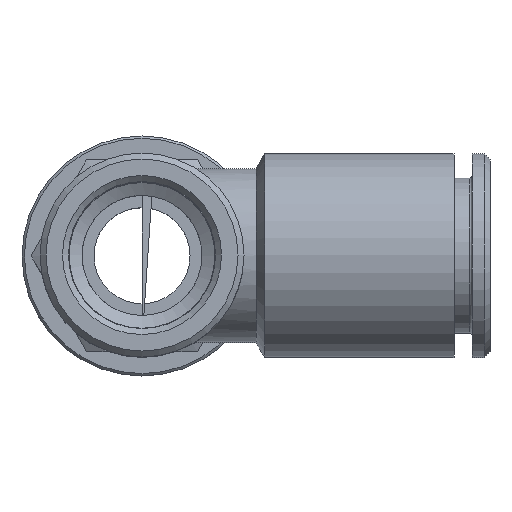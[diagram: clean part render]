
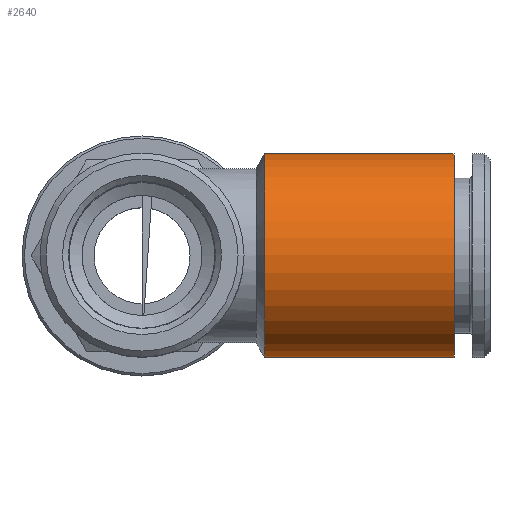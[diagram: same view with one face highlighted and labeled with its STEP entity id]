
A CAD part, top view. The second image highlights one B-rep face of the part: STEP entity #2640.
In plain terms, the highlighted cylindrical face has radius 8.5 mm (diameter 17 mm), a full revolution.
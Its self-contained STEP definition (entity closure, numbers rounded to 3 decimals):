
#2640=ADVANCED_FACE('', (#2650,#2660), #2670, .T.);
#9850=AXIS2_PLACEMENT_3D('Ax2Pl3d', #9860, #9870, #9880);
#9890=AXIS2_PLACEMENT_3D('Ax2Pl3d', #9900, #9910, #9920);
#9930=AXIS2_PLACEMENT_3D('Ax2Pl3d', #9940, #9950, #9960);
#9860=CARTESIAN_POINT('HicPkt', (44.65,14.27,23.511));
#20100=CARTESIAN_POINT('', (44.65,14.27,32.011));
#9900=CARTESIAN_POINT('HicPkt', (44.65,14.27,23.511))
;
#9940=CARTESIAN_POINT('HicPkt', (28.872,14.27,
23.511));
#20110=CARTESIAN_POINT('', (28.872,14.27,32.011));
#21360=CIRCLE('Circle', #9850, 8.5);
#21370=CIRCLE('Circle', #9930, 8.5);
#2670=CYLINDRICAL_SURFACE('Zyl', #9890, 8.5);
#9870=DIRECTION('Axis', (1.,0.,0.));
#9880=DIRECTION('RefDirection', (0.,-0.,-1.));
#9910=DIRECTION('Axis', (-1.,0.,0.))
;
#9920=DIRECTION('RefDirection', (0.,
0.,-1.));
#9950=DIRECTION('Axis', (-1.,0.,0.))
;
#9960=DIRECTION('RefDirection', (0.,
0.,-1.));
#27440=EDGE_CURVE('', #27450, #27450, #21360, .T.);
#27460=EDGE_CURVE('', #27470, #27470, #21370, .T.);
#31320=EDGE_LOOP('Edge_loop', (#31330));
#31340=EDGE_LOOP('Edge_loop', (#31350));
#2660=FACE_BOUND('', #31340, .T.);
#2650=FACE_OUTER_BOUND('Face_outer_bound', #31320, .T.);
#31330=ORIENTED_EDGE('', *, *, #27460, .F.);
#31350=ORIENTED_EDGE('', *, *, #27440, .F.);
#27450=VERTEX_POINT('', #20100);
#27470=VERTEX_POINT('', #20110);
